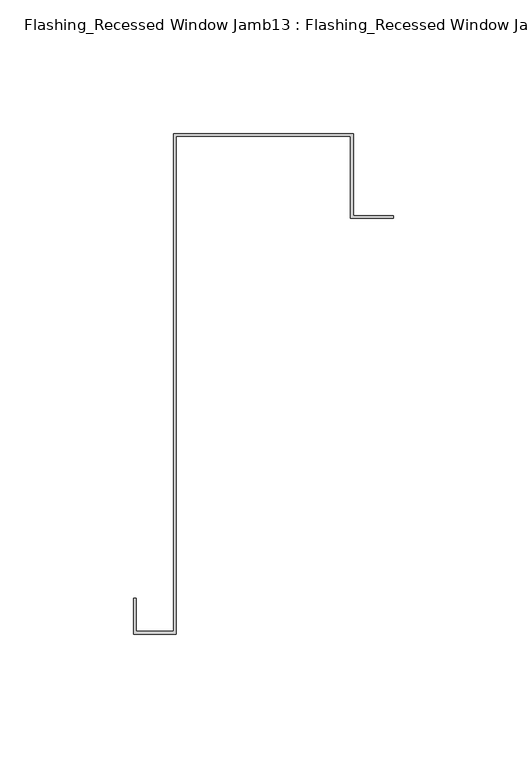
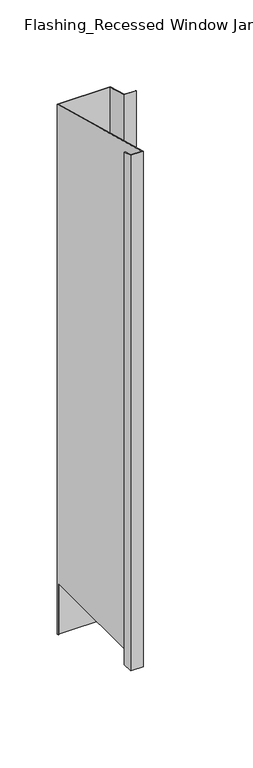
"""IFC4 building model written with IfcOpenShell, lengths in millimetres: proxy geometry, Flashing_Recessed Window Jamb13 : Flashing_Recessed Window Jamb."""

from ifc_helpers import new_model, si_unit, origin, place, context, project, spatial, faceted_brep, source, transform, mapped, element, save


def flashing_recessed_window_jamb13_flashing_recessed_window_1e06e09a(model_context):
    return source(origin(), model_context, "Body", "Brep", [
        faceted_brep([(17204.8973206, -20641.3616572, -1055.1751138), (17204.8973206, -20610.6136752, -1055.1751138), (17139.5223206, -20610.6136752, -1055.1751138), (17139.5223206, -20611.5455269, -1055.1751138), (17138.5223206, -20611.5455269, -1055.1751138), (17138.5223206, -20609.6136752, -1055.1751138), (17205.8973206, -20609.6136752, -1055.1751138), (17205.8973206, -20640.3616572, -1055.1751138), (17220.8973206, -20640.3616572, -1055.1751138), (17220.8973206, -20641.3616572, -1055.1751138), (17205.8973206, -20609.6136752, -343.2151173), (17205.8973206, -20640.3616572, -334.9762204), (17138.5223206, -20609.6136752, -343.2151173), (17138.5223206, -20611.5455269, -985.662203), (17138.5223206, -20795.9866572, -985.662203), (17138.5223206, -20795.9866572, -293.2766273), (17124.5223206, -20795.9866572, -293.2766273), (17124.5223206, -20795.9866572, -985.662203), (17124.5223206, -20783.6609287, -296.5792963), (17124.5223206, -20783.6609287, -985.662203), (17123.5223206, -20783.6609287, -296.5792963), (17123.5223206, -20783.6609287, -985.662203), (17123.5223206, -20796.9866572, -293.0086781), (17123.5223206, -20796.9866572, -985.662203), (17139.5223206, -20796.9866572, -293.0086781), (17139.5223206, -20796.9866572, -985.662203), (17139.5223206, -20610.6136752, -342.9471681), (17139.5223206, -20611.5455269, -985.662203), (17204.8973206, -20610.6136752, -342.9471681), (17204.8973206, -20641.3616572, -334.7082712), (17220.8973206, -20641.3616572, -334.7082712), (17220.8973206, -20640.3616572, -334.9762204)], [[[0, 1, 2, 3, 4, 5, 6, 7, 8, 9]], [[7, 6, 10, 11]], [[6, 5, 12, 10]], [[12, 5, 4, 13, 14, 15]], [[16, 15, 14, 17]], [[18, 16, 17, 19]], [[20, 18, 19, 21]], [[22, 20, 21, 23]], [[24, 22, 23, 25]], [[2, 26, 24, 25, 27, 3]], [[2, 1, 28, 26]], [[1, 0, 29, 28]], [[0, 9, 30, 29]], [[9, 8, 31, 30]], [[8, 7, 11, 31]], [[11, 10, 12, 15, 16, 18, 20, 22, 24, 26, 28, 29, 30, 31]], [[13, 27, 25, 23, 21, 19, 17, 14]], [[27, 13, 4, 3]]]),
    ])


if __name__ == "__main__":
    model = new_model("IFC4")
    model_context = context("Model", 3, world=origin())
    ifc_project = project(units=[si_unit("LENGTHUNIT", "METRE", prefix="MILLI")], contexts=[model_context])
    site = spatial("IfcSite", under=ifc_project)
    building = spatial("IfcBuilding", under=site)
    placement = place(None, origin())
    flashing_recessed_window_jamb13_flashing_recessed_window_shape = flashing_recessed_window_jamb13_flashing_recessed_window_1e06e09a(model_context)
    element("IfcBuildingElementProxy", 1, Name="Flashing_Recessed Window Jamb13 : Flashing_Recessed Window Jamb", ObjectType="Flashing_Recessed Window Jamb13 : Flashing_Recessed Window Jamb", at=placement, inside=building, context=model_context, shape_type="MappedRepresentation", body=[
        mapped(flashing_recessed_window_jamb13_flashing_recessed_window_shape, transform((0.0, 0.0, 0.0), x_axis=(1.0, 0.0, 0.0), y_axis=(0.0, 1.0, 0.0), z_axis=(0.0, 0.0, 1.0))),
    ])
    save(model, "model.ifc")
